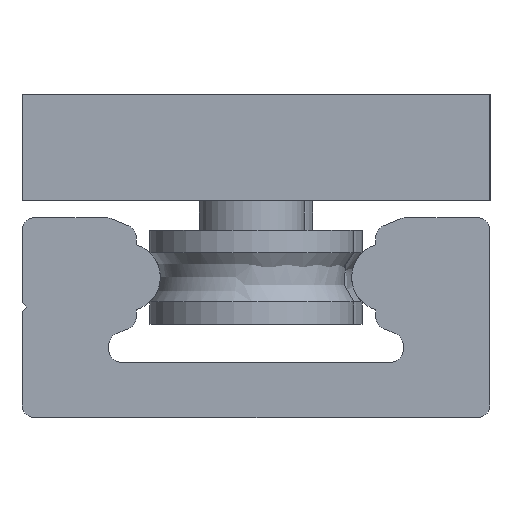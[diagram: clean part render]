
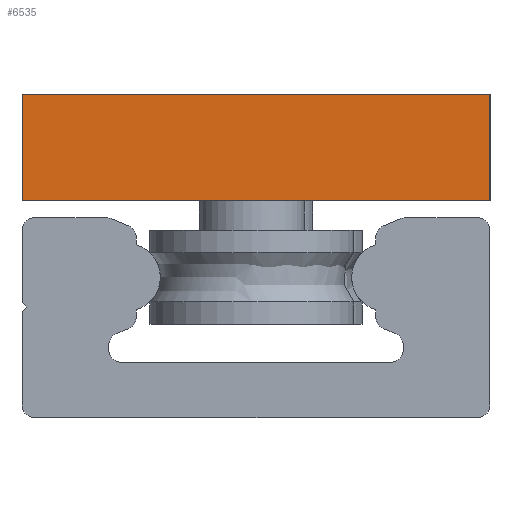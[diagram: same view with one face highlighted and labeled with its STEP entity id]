
A CAD part, left-side view. The second image highlights one B-rep face of the part: STEP entity #6535.
In plain terms, the highlighted planar face has unit normal (-1, 0, 0).
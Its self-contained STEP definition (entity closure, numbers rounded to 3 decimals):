
#6355=CARTESIAN_POINT('',(0.0,-27.5,21.5));
#6356=VERTEX_POINT('',#6355);
#6363=CARTESIAN_POINT('',(0.0,-27.5,9.0));
#6364=VERTEX_POINT('',#6363);
#6365=CARTESIAN_POINT('',(0.0,-27.5,21.5));
#6366=DIRECTION('',(0.0,0.0,-1.0));
#6367=VECTOR('',#6366,12.5);
#6368=LINE('',#6365,#6367);
#6369=EDGE_CURVE('',#6356,#6364,#6368,.T.);
#6393=CARTESIAN_POINT('',(0.0,27.5,21.5));
#6394=VERTEX_POINT('',#6393);
#6401=CARTESIAN_POINT('',(0.0,27.5,21.5));
#6402=DIRECTION('',(0.0,-1.0,0.0));
#6403=VECTOR('',#6402,55.0);
#6404=LINE('',#6401,#6403);
#6405=EDGE_CURVE('',#6394,#6356,#6404,.T.);
#6454=CARTESIAN_POINT('',(0.0,27.5,9.));
#6455=VERTEX_POINT('',#6454);
#6462=CARTESIAN_POINT('',(0.0,27.5,9.));
#6463=DIRECTION('',(0.0,0.0,1.0));
#6464=VECTOR('',#6463,12.5);
#6465=LINE('',#6462,#6464);
#6466=EDGE_CURVE('',#6455,#6394,#6465,.T.);
#6484=CARTESIAN_POINT('',(0.0,-27.5,9.0));
#6485=DIRECTION('',(0.0,1.0,0.0));
#6486=VECTOR('',#6485,55.0);
#6487=LINE('',#6484,#6486);
#6488=EDGE_CURVE('',#6364,#6455,#6487,.T.);
#6524=CARTESIAN_POINT('',(0.0,0.,15.25));
#6525=DIRECTION('',(1.0,0.0,0.0));
#6526=DIRECTION('',(0.0,0.0,-1.0));
#6527=AXIS2_PLACEMENT_3D('',#6524,#6525,#6526);
#6528=PLANE('',#6527);
#6529=ORIENTED_EDGE('',*,*,#6488,.F.);
#6530=ORIENTED_EDGE('',*,*,#6369,.F.);
#6531=ORIENTED_EDGE('',*,*,#6405,.F.);
#6532=ORIENTED_EDGE('',*,*,#6466,.F.);
#6533=EDGE_LOOP('',(#6529,#6530,#6531,#6532));
#6534=FACE_OUTER_BOUND('',#6533,.T.);
#6535=ADVANCED_FACE('',(#6534),#6528,.F.);
